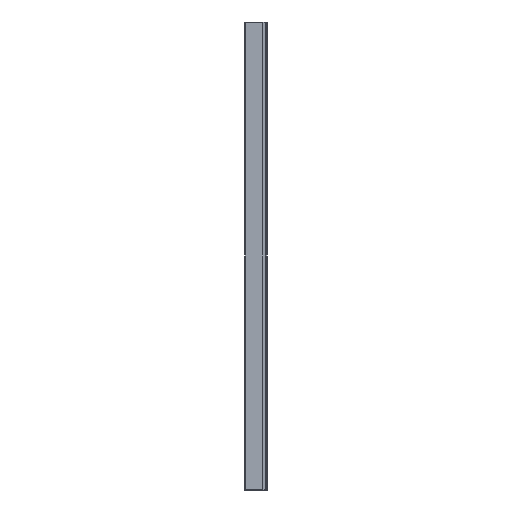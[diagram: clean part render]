
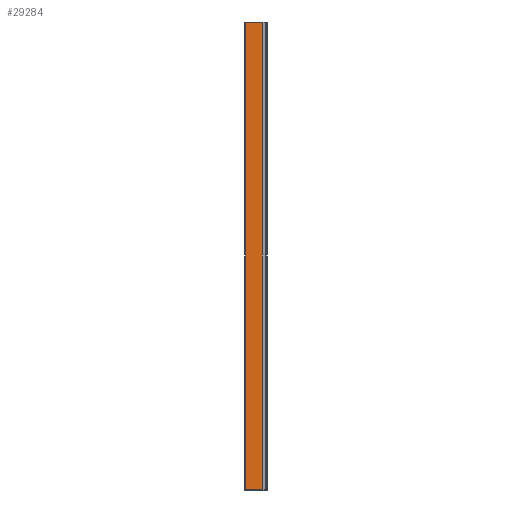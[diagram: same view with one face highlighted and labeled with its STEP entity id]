
A CAD part, left-side view. The second image highlights one B-rep face of the part: STEP entity #29284.
In plain terms, the highlighted planar face has unit normal (-1, 0, 0).
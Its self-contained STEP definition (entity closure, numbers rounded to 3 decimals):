
#278 = EDGE_LOOP ( 'NONE', ( #25609, #19325, #16508, #7432 ) ) ;
#846 = DIRECTION ( 'NONE',  ( 0., -1., 0. ) ) ;
#1408 = CARTESIAN_POINT ( 'NONE',  ( -19., 5.9, 275. ) ) ;
#2081 = CARTESIAN_POINT ( 'NONE',  ( -19., 5.9, -275. ) ) ;
#2281 = LINE ( 'NONE', #23446, #20460 ) ;
#3284 = EDGE_CURVE ( 'NONE', #6183, #23764, #3509, .T. ) ;
#3509 = LINE ( 'NONE', #28737, #5652 ) ;
#3870 = CARTESIAN_POINT ( 'NONE',  ( -19., 26.417, 275. ) ) ;
#5492 = CARTESIAN_POINT ( 'NONE',  ( -19., 5.9, 275. ) ) ;
#5652 = VECTOR ( 'NONE', #8475, 1000. ) ;
#6183 = VERTEX_POINT ( 'NONE', #3870 ) ;
#6411 = PLANE ( 'NONE',  #27361 ) ;
#6832 = CARTESIAN_POINT ( 'NONE',  ( -19., 26.417, -275. ) ) ;
#7432 = ORIENTED_EDGE ( 'NONE', *, *, #3284, .T. ) ;
#8475 = DIRECTION ( 'NONE',  ( 0., 0., -1. ) ) ;
#8788 = CARTESIAN_POINT ( 'NONE',  ( -19., 26.417, 275. ) ) ;
#8853 = VECTOR ( 'NONE', #9134, 1000. ) ;
#9134 = DIRECTION ( 'NONE',  ( 0., -1., 0. ) ) ;
#14610 = LINE ( 'NONE', #6832, #8853 ) ;
#16133 = LINE ( 'NONE', #5492, #23667 ) ;
#16508 = ORIENTED_EDGE ( 'NONE', *, *, #22788, .F. ) ;
#16722 = EDGE_CURVE ( 'NONE', #23764, #27431, #14610, .T. ) ;
#17398 = FACE_OUTER_BOUND ( 'NONE', #278, .T. ) ;
#18548 = CARTESIAN_POINT ( 'NONE',  ( -19., 26.417, -275. ) ) ;
#19325 = ORIENTED_EDGE ( 'NONE', *, *, #23897, .F. ) ;
#19969 = DIRECTION ( 'NONE',  ( 0., 0., -1. ) ) ;
#20066 = DIRECTION ( 'NONE',  ( 1., 0., 0. ) ) ;
#20460 = VECTOR ( 'NONE', #846, 1000. ) ;
#21447 = DIRECTION ( 'NONE',  ( 0., 0., -1. ) ) ;
#22788 = EDGE_CURVE ( 'NONE', #6183, #25964, #2281, .T. ) ;
#23446 = CARTESIAN_POINT ( 'NONE',  ( -19., 26.417, 275. ) ) ;
#23667 = VECTOR ( 'NONE', #21447, 1000. ) ;
#23764 = VERTEX_POINT ( 'NONE', #18548 ) ;
#23897 = EDGE_CURVE ( 'NONE', #25964, #27431, #16133, .T. ) ;
#25609 = ORIENTED_EDGE ( 'NONE', *, *, #16722, .T. ) ;
#25964 = VERTEX_POINT ( 'NONE', #1408 ) ;
#27361 = AXIS2_PLACEMENT_3D ( 'NONE', #8788, #20066, #19969 ) ;
#27431 = VERTEX_POINT ( 'NONE', #2081 ) ;
#28737 = CARTESIAN_POINT ( 'NONE',  ( -19., 26.417, 275. ) ) ;
#29284 = ADVANCED_FACE ( 'NONE', ( #17398 ), #6411, .F. ) ;
